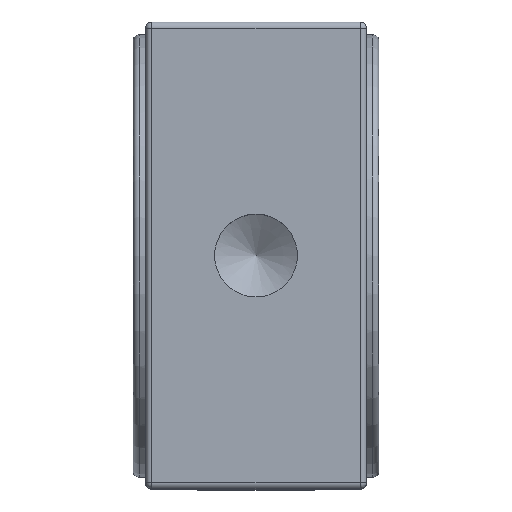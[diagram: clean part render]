
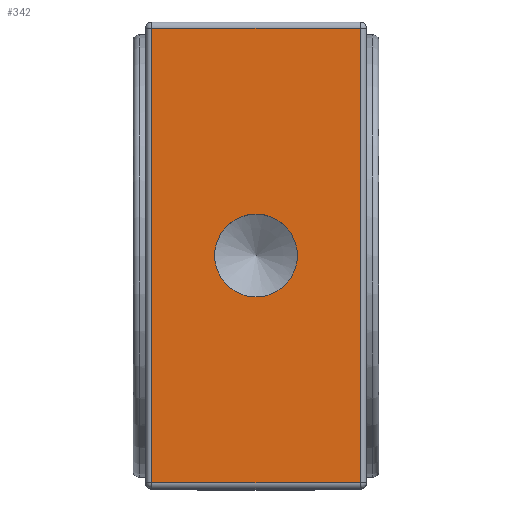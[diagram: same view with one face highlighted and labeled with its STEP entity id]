
A CAD part, top view. The second image highlights one B-rep face of the part: STEP entity #342.
In plain terms, the highlighted planar face has unit normal (0, 0, 1).
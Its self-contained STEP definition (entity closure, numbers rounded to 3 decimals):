
#239=FACE_BOUND('',#588,.T.);
#240=FACE_BOUND('',#589,.T.);
#342=ADVANCED_FACE('',(#239,#240),#468,.T.);
#468=PLANE('',#2054);
#588=EDGE_LOOP('',(#917));
#589=EDGE_LOOP('',(#918,#919,#920,#921));
#765=CIRCLE('',#2053,3.375);
#917=ORIENTED_EDGE('',*,*,#1616,.T.);
#918=ORIENTED_EDGE('',*,*,#1617,.T.);
#919=ORIENTED_EDGE('',*,*,#1618,.T.);
#920=ORIENTED_EDGE('',*,*,#1619,.T.);
#921=ORIENTED_EDGE('',*,*,#1620,.T.);
#1431=VERTEX_POINT('',#3002);
#1432=VERTEX_POINT('',#3004);
#1433=VERTEX_POINT('',#3005);
#1434=VERTEX_POINT('',#3007);
#1435=VERTEX_POINT('',#3009);
#1616=EDGE_CURVE('',#1431,#1431,#765,.T.);
#1617=EDGE_CURVE('',#1432,#1433,#1851,.T.);
#1618=EDGE_CURVE('',#1433,#1434,#1852,.T.);
#1619=EDGE_CURVE('',#1434,#1435,#1853,.T.);
#1620=EDGE_CURVE('',#1435,#1432,#1854,.T.);
#1851=LINE('',#3003,#1950);
#1852=LINE('',#3006,#1951);
#1853=LINE('',#3008,#1952);
#1854=LINE('',#3010,#1953);
#1950=VECTOR('',#2372,1.);
#1951=VECTOR('',#2373,1.);
#1952=VECTOR('',#2374,1.);
#1953=VECTOR('',#2375,1.);
#2053=AXIS2_PLACEMENT_3D('',#3001,#2370,#2371);
#2054=AXIS2_PLACEMENT_3D('',#3011,#2376,#2377);
#2370=DIRECTION('',(0.,0.,-1.));
#2371=DIRECTION('',(-1.,0.,0.));
#2372=DIRECTION('',(1.,0.,0.));
#2373=DIRECTION('',(0.,1.,0.));
#2374=DIRECTION('',(-1.,0.,0.));
#2375=DIRECTION('',(0.,-1.,0.));
#2376=DIRECTION('',(0.,0.,1.));
#2377=DIRECTION('',(1.,0.,0.));
#3001=CARTESIAN_POINT('',(9.,19.,48.));
#3002=CARTESIAN_POINT('',(5.625,19.,48.));
#3003=CARTESIAN_POINT('',(9.,0.5,48.));
#3004=CARTESIAN_POINT('',(0.5,0.5,48.));
#3005=CARTESIAN_POINT('',(17.5,0.5,48.));
#3006=CARTESIAN_POINT('',(17.5,19.,48.));
#3007=CARTESIAN_POINT('',(17.5,37.5,48.));
#3008=CARTESIAN_POINT('',(9.,37.5,48.));
#3009=CARTESIAN_POINT('',(0.5,37.5,48.));
#3010=CARTESIAN_POINT('',(0.5,19.,48.));
#3011=CARTESIAN_POINT('',(9.,19.,48.));
